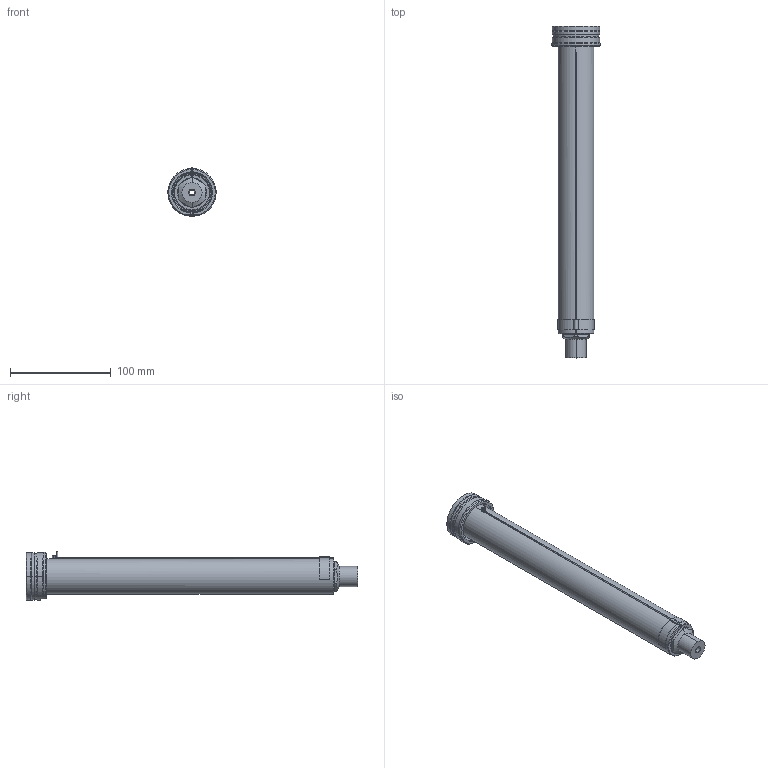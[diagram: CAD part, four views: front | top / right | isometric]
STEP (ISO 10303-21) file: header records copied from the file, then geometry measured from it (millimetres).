
FILE_DESCRIPTION((''),'2;1');
FILE_NAME('EO16_VG-FBE_WR_300_SW','2024-02-19T14:14:43',('sundharh'),(''),'CREO PARAMETRIC BY PTC INC, 2023154','CREO PARAMETRIC BY PTC INC, 2023154','');
FILE_SCHEMA(('CONFIG_CONTROL_DESIGN'));
Length unit declared in the file: millimetre
Products named in the file (1): EO16_VG-FBE_WR_300_SW
Bounding box: 47.97 x 330 x 48 mm (x, y, z)
Volume: 261158.9 mm3; surface area: 61765.5 mm2
Topology: 1 solids, 1 shells, 198 faces, 478 edges, 287 vertices
Faces by surface type: cylinder 72, plane 46, cone 41, torus 24, bspline 13, sphere 2
Entity records: 6752 total; most frequent: CARTESIAN_POINT 2052, DIRECTION 1058, ORIENTED_EDGE 940, EDGE_CURVE 470, AXIS2_PLACEMENT_3D 443, VERTEX_POINT 287, CIRCLE 258, EDGE_LOOP 215
